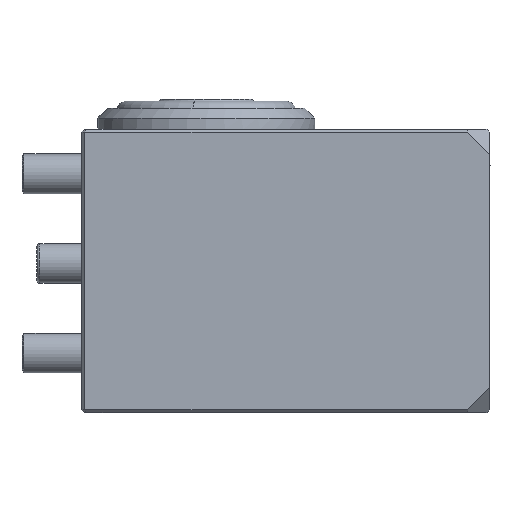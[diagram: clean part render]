
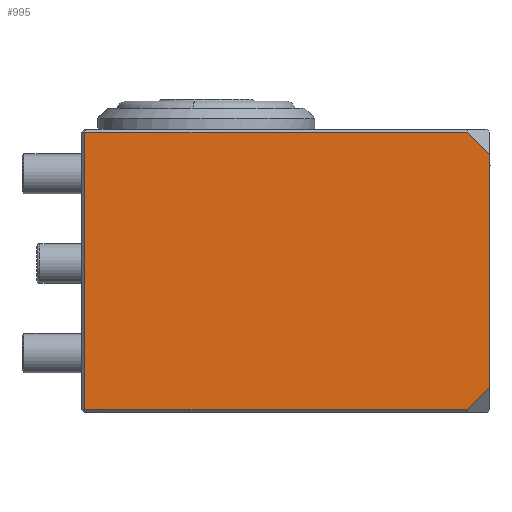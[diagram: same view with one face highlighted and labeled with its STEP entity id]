
A CAD part, left-side view. The second image highlights one B-rep face of the part: STEP entity #995.
In plain terms, the highlighted planar face has unit normal (-1, 0, 0).
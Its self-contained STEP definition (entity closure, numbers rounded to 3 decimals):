
#100=PLANE('',#3380);
#245=FACE_OUTER_BOUND('',#1418,.T.);
#437=LINE('',#5087,#685);
#454=LINE('',#5124,#702);
#455=LINE('',#5127,#703);
#456=LINE('',#5129,#704);
#457=LINE('',#5130,#705);
#458=LINE('',#5132,#706);
#685=VECTOR('',#3803,1.);
#702=VECTOR('',#3826,1.);
#703=VECTOR('',#3827,1.);
#704=VECTOR('',#3828,1.);
#705=VECTOR('',#3829,1.);
#706=VECTOR('',#3830,1.);
#995=ADVANCED_FACE('',(#245),#100,.T.);
#1418=EDGE_LOOP('',(#1786,#1787,#1788,#1789,#1790,#1791));
#1786=ORIENTED_EDGE('',*,*,#2876,.T.);
#1787=ORIENTED_EDGE('',*,*,#2877,.T.);
#1788=ORIENTED_EDGE('',*,*,#2878,.T.);
#1789=ORIENTED_EDGE('',*,*,#2858,.T.);
#1790=ORIENTED_EDGE('',*,*,#2879,.T.);
#1791=ORIENTED_EDGE('',*,*,#2880,.T.);
#2550=VERTEX_POINT('',#5073);
#2557=VERTEX_POINT('',#5086);
#2575=VERTEX_POINT('',#5125);
#2576=VERTEX_POINT('',#5126);
#2577=VERTEX_POINT('',#5128);
#2578=VERTEX_POINT('',#5131);
#2858=EDGE_CURVE('',#2550,#2557,#437,.T.);
#2876=EDGE_CURVE('',#2575,#2576,#454,.T.);
#2877=EDGE_CURVE('',#2576,#2577,#455,.T.);
#2878=EDGE_CURVE('',#2577,#2550,#456,.T.);
#2879=EDGE_CURVE('',#2557,#2578,#457,.T.);
#2880=EDGE_CURVE('',#2578,#2575,#458,.T.);
#3380=AXIS2_PLACEMENT_3D('',#5133,#3831,#3832);
#3803=DIRECTION('',(0.,0.,1.));
#3826=DIRECTION('',(0.,0.,-1.));
#3827=DIRECTION('',(0.,-1.,0.));
#3828=DIRECTION('',(0.,-0.707,0.707));
#3829=DIRECTION('',(0.,0.707,0.707));
#3830=DIRECTION('',(0.,1.,0.));
#3831=DIRECTION('',(-1.,0.,0.));
#3832=DIRECTION('',(0.,-1.,0.));
#5073=CARTESIAN_POINT('',(-30.,-20.5,-25.96));
#5086=CARTESIAN_POINT('',(-30.,-20.5,-2.54));
#5087=CARTESIAN_POINT('',(-30.,-20.5,-28.5));
#5124=CARTESIAN_POINT('',(-30.,20.2,-28.5));
#5125=CARTESIAN_POINT('',(-30.,20.2,-0.3));
#5126=CARTESIAN_POINT('',(-30.,20.2,-28.2));
#5127=CARTESIAN_POINT('',(-30.,-17.96,-28.2));
#5128=CARTESIAN_POINT('',(-30.,-18.26,-28.2));
#5129=CARTESIAN_POINT('',(-30.,1.27,-47.73));
#5130=CARTESIAN_POINT('',(-30.,-12.98,4.98));
#5131=CARTESIAN_POINT('',(-30.,-18.26,-0.3));
#5132=CARTESIAN_POINT('',(-30.,20.5,-0.3));
#5133=CARTESIAN_POINT('',(-30.,20.5,-28.5));
